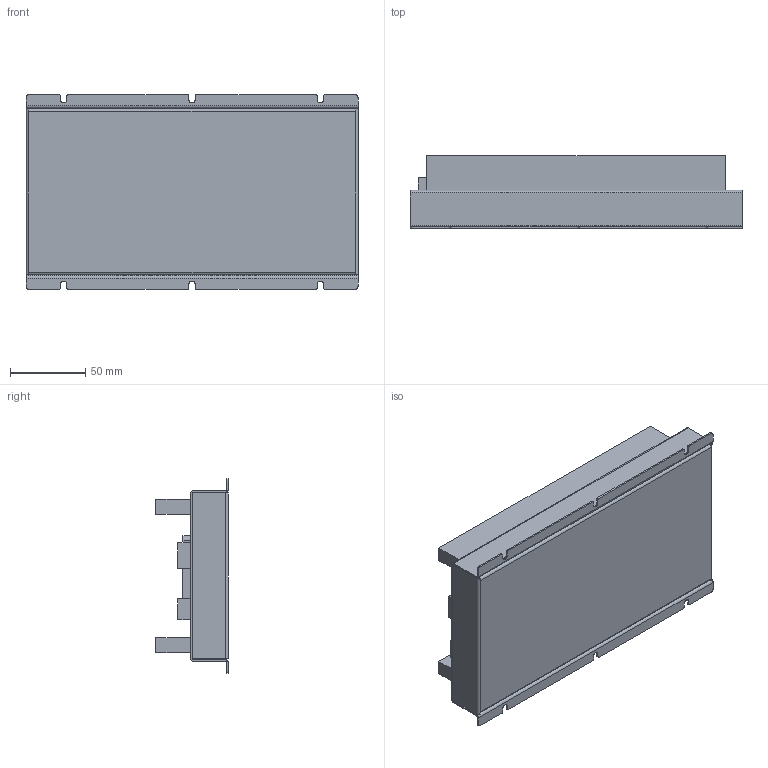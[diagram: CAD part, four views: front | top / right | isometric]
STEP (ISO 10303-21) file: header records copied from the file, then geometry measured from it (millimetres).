
FILE_DESCRIPTION (( 'STEP AP203' ), '1' );
FILE_NAME ('GCN800A_3d_model.STEP', '2020-04-14T02:43:49', ( 'Windows 蚚誧' ), ( ' ' ), 'SwSTEP 2.0', 'SolidWorks 2014', '' );
FILE_SCHEMA (( 'CONFIG_CONTROL_DESIGN' ));
Length unit declared in the file: millimetre
Products named in the file (3): GCN800A鍼踢(狟ㄘ; GCN800A鍼踢(奻ㄘ; GCN800A_3d_model
Assembly tree (2 placements, depth 2):
  GCN800A_3d_model
    GCN800A鍼踢(狟ㄘ
    GCN800A鍼踢(奻ㄘ
Bounding box: 220 x 48 x 129 mm (x, y, z)
Volume: 195123.2 mm3; surface area: 182081 mm2
Topology: 2 solids, 2 shells, 270 faces, 696 edges, 444 vertices
Faces by surface type: plane 212, cylinder 58
Entity records: 8385 total; most frequent: CARTESIAN_POINT 1415, ORIENTED_EDGE 1392, DIRECTION 1366, EDGE_CURVE 696, VECTOR 576, LINE 576, VERTEX_POINT 444, AXIS2_PLACEMENT_3D 395
